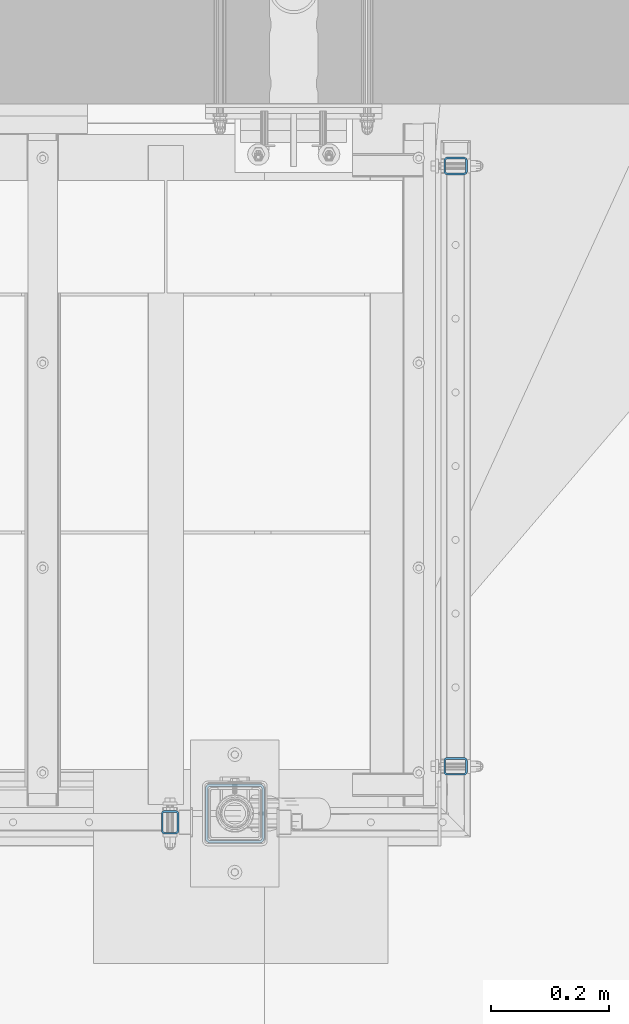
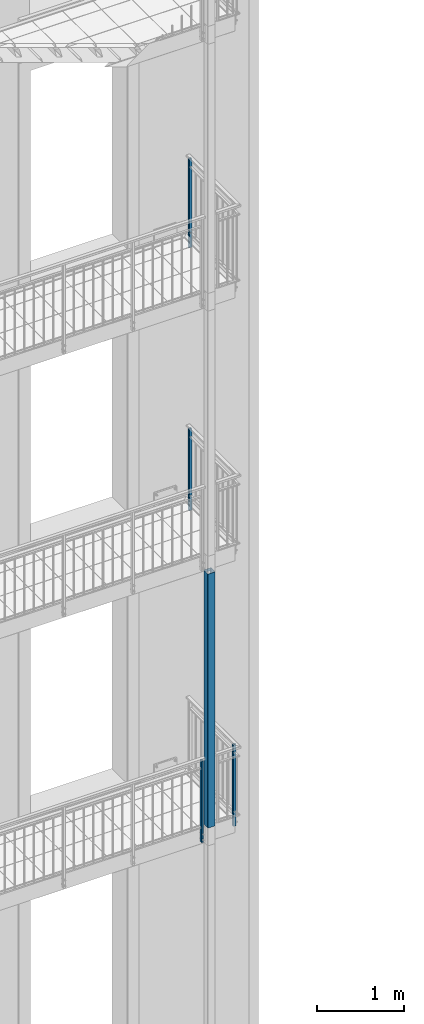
# One storey, part 12 of 162: 5 columns, 29 openings.
"""IFC2X3 building model written with IfcOpenShell, lengths in millimetres."""

from ifc_helpers import new_model, entity, si_unit, converted_unit, point, frame, frame_2d, origin, origin_with_axes, origin_2d, origin_2d_with_axis, place, context, project, spatial, circle_curve, line_curve, trimmed, segment, composite_curve, hollow_rectangle, circle, outline, extrude, material, element, save


model = new_model("IFC2X3")

# Units and contexts
model_context = context("Model", 3, precision=1e-09, world=origin_with_axes())
ifc_project = project(units=[si_unit("LENGTHUNIT", "METRE", prefix="MILLI"), si_unit("AREAUNIT", "SQUARE_METRE"), si_unit("VOLUMEUNIT", "CUBIC_METRE"), converted_unit("PLANEANGLEUNIT", "DEGREE", entity("IfcPlaneAngleMeasure", 0.01745329), si_unit("PLANEANGLEUNIT", "RADIAN"), dimensions=[0, 0, 0, 0, 0, 0, 0])], contexts=[model_context])

# Site, building, storey
site_placement = place(None, origin_with_axes())
site = spatial("IfcSite", under=ifc_project, at=site_placement, Name="Hermannstra?e 1a, 60318 Frankfurt", CompositionType="ELEMENT")
building_placement = place(site_placement, origin_with_axes())
building = spatial("IfcBuilding", under=site, at=building_placement, Name="Struktur 1", CompositionType="ELEMENT")
storey_placement = place(building_placement, origin_with_axes())
storey = spatial("IfcBuildingStorey", under=building, at=storey_placement, Name="Default Storey", CompositionType="ELEMENT", Elevation=0.0)

# Column, openings
ifc_material = material(Name="S235JR")
column_1_placement = place(None, frame((5848.30936482, 2630.609373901, 7600.0), z_axis=(0.0, 0.0, -1.0), x_axis=(0.0, -1.0, 0.0)))
column_1 = element("IfcColumn", 1, at=column_1_placement, inside=storey, material=ifc_material, Name="-", ObjectType="-", context=model_context, shape_type="SweptSolid", body=[
    extrude(hollow_rectangle(XDim=30.0, YDim=40.0, WallThickness=3.0, InnerFilletRadius=3.0, OuterFilletRadius=6.0, at=origin_2d()), origin(), (0.0, 0.0, -1.0), 1150.0),
])
opening_1_placement = place(column_1_placement, frame((11.5, -5.001, -1040.0), z_axis=(-1.0, 0.0, 0.0), x_axis=(0.0, -1.0, 0.0)))
element("IfcOpeningElement", 2, at=opening_1_placement, cuts=column_1, ObjectType="Opening", context=model_context, shape_type="SweptSolid", body=[
    extrude(circle(Radius=5.001, at=frame_2d((-5.001, 0.0), x_axis=(1.0, 0.0))), origin(), (0.0, 0.0, -1.0), 4.0),
])
opening_2_placement = place(column_1_placement, frame((11.5, -5.001, -210.0), z_axis=(-1.0, 0.0, 0.0), x_axis=(0.0, -1.0, 0.0)))
element("IfcOpeningElement", 3, at=opening_2_placement, cuts=column_1, ObjectType="Opening", context=model_context, shape_type="SweptSolid", body=[
    extrude(circle(Radius=5.001, at=frame_2d((-5.001, 0.0), x_axis=(1.0, 0.0))), origin(), (0.0, 0.0, -1.0), 4.0),
])
opening_3_placement = place(column_1_placement, frame((8.001, 16.5, -120.0), z_axis=(0.0, -1.0, 0.0), x_axis=(1.0, 0.0, 0.0)))
element("IfcOpeningElement", 4, at=opening_3_placement, cuts=column_1, ObjectType="Opening", context=model_context, shape_type="SweptSolid", body=[
    extrude(circle(Radius=8.001, at=frame_2d((-8.001, 0.0), x_axis=(1.0, 0.0))), origin(), (0.0, 0.0, -1.0), 4.0),
])
opening_4_placement = place(column_1_placement, frame((8.001, 16.5, -40.0), z_axis=(0.0, -1.0, 0.0), x_axis=(1.0, 0.0, 0.0)))
element("IfcOpeningElement", 5, at=opening_4_placement, cuts=column_1, ObjectType="Opening", context=model_context, shape_type="SweptSolid", body=[
    extrude(circle(Radius=8.001, at=frame_2d((-8.001, 0.0), x_axis=(1.0, 0.0))), origin(), (0.0, 0.0, -1.0), 4.0),
])
opening_5_placement = place(column_1_placement, frame((8.001, -20.5, -120.0), z_axis=(0.0, -1.0, 0.0), x_axis=(1.0, 0.0, 0.0)))
element("IfcOpeningElement", 6, at=opening_5_placement, cuts=column_1, ObjectType="Opening", context=model_context, shape_type="SweptSolid", body=[
    extrude(circle(Radius=8.001, at=frame_2d((-8.001, 0.0), x_axis=(1.0, 0.0))), origin(), (0.0, 0.0, -1.0), 4.0),
])
opening_6_placement = place(column_1_placement, frame((8.001, -20.5, -40.0), z_axis=(0.0, -1.0, 0.0), x_axis=(1.0, 0.0, 0.0)))
element("IfcOpeningElement", 7, at=opening_6_placement, cuts=column_1, ObjectType="Opening", context=model_context, shape_type="SweptSolid", body=[
    extrude(circle(Radius=8.001, at=frame_2d((-8.001, 0.0), x_axis=(1.0, 0.0))), origin(), (0.0, 0.0, -1.0), 4.0),
])

column_2_placement = place(None, frame((5848.30936482, 2630.609373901, 11299.999), z_axis=(0.0, 0.0, -1.0), x_axis=(0.0, -1.0, 0.0)))
column_2 = element("IfcColumn", 8, at=column_2_placement, inside=storey, material=ifc_material, Name="-", ObjectType="-", context=model_context, shape_type="SweptSolid", body=[
    extrude(hollow_rectangle(XDim=30.0, YDim=40.0, WallThickness=3.0, InnerFilletRadius=3.0, OuterFilletRadius=6.0, at=origin_2d()), origin(), (0.0, 0.0, -1.0), 1250.0),
])
opening_7_placement = place(column_2_placement, frame((11.5, -5.001, -1140.0), z_axis=(-1.0, 0.0, 0.0), x_axis=(0.0, -1.0, 0.0)))
element("IfcOpeningElement", 9, at=opening_7_placement, cuts=column_2, ObjectType="Opening", context=model_context, shape_type="SweptSolid", body=[
    extrude(circle(Radius=5.001, at=frame_2d((-5.001, 0.0), x_axis=(1.0, 0.0))), origin(), (0.0, 0.0, -1.0), 4.0),
])
opening_8_placement = place(column_2_placement, frame((11.5, -5.001, -210.0), z_axis=(-1.0, 0.0, 0.0), x_axis=(0.0, -1.0, 0.0)))
element("IfcOpeningElement", 10, at=opening_8_placement, cuts=column_2, ObjectType="Opening", context=model_context, shape_type="SweptSolid", body=[
    extrude(circle(Radius=5.001, at=frame_2d((-5.001, 0.0), x_axis=(1.0, 0.0))), origin(), (0.0, 0.0, -1.0), 4.0),
])
opening_9_placement = place(column_2_placement, frame((8.001, 16.5, -120.0), z_axis=(0.0, -1.0, 0.0), x_axis=(1.0, 0.0, 0.0)))
element("IfcOpeningElement", 11, at=opening_9_placement, cuts=column_2, ObjectType="Opening", context=model_context, shape_type="SweptSolid", body=[
    extrude(circle(Radius=8.001, at=frame_2d((-8.001, 0.0), x_axis=(1.0, 0.0))), origin(), (0.0, 0.0, -1.0), 4.0),
])
opening_10_placement = place(column_2_placement, frame((8.001, 16.5, -40.0), z_axis=(0.0, -1.0, 0.0), x_axis=(1.0, 0.0, 0.0)))
element("IfcOpeningElement", 12, at=opening_10_placement, cuts=column_2, ObjectType="Opening", context=model_context, shape_type="SweptSolid", body=[
    extrude(circle(Radius=8.001, at=frame_2d((-8.001, 0.0), x_axis=(1.0, 0.0))), origin(), (0.0, 0.0, -1.0), 4.0),
])
opening_11_placement = place(column_2_placement, frame((8.001, -20.5, -120.0), z_axis=(0.0, -1.0, 0.0), x_axis=(1.0, 0.0, 0.0)))
element("IfcOpeningElement", 13, at=opening_11_placement, cuts=column_2, ObjectType="Opening", context=model_context, shape_type="SweptSolid", body=[
    extrude(circle(Radius=8.001, at=frame_2d((-8.001, 0.0), x_axis=(1.0, 0.0))), origin(), (0.0, 0.0, -1.0), 4.0),
])
opening_12_placement = place(column_2_placement, frame((8.001, -20.5, -40.0), z_axis=(0.0, -1.0, 0.0), x_axis=(1.0, 0.0, 0.0)))
element("IfcOpeningElement", 14, at=opening_12_placement, cuts=column_2, ObjectType="Opening", context=model_context, shape_type="SweptSolid", body=[
    extrude(circle(Radius=8.001, at=frame_2d((-8.001, 0.0), x_axis=(1.0, 0.0))), origin(), (0.0, 0.0, -1.0), 4.0),
])

column_3_placement = place(None, frame((5473.30936482, 1530.609373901, 3965.0), z_axis=(0.0, 0.0, 1.0), x_axis=(0.0, -1.0, 0.0)))
column_3 = element("IfcColumn", 15, at=column_3_placement, inside=storey, material=ifc_material, Name="-", ObjectType="-", context=model_context, shape_type="SweptSolid", body=[
    extrude(hollow_rectangle(XDim=100.0, YDim=100.0, WallThickness=4.0, InnerFilletRadius=4.0, OuterFilletRadius=8.0, at=origin_2d()), origin(), (0.0, 0.0, 1.0), 3575.0),
])
opening_13_placement = place(column_3_placement, frame((-150.1, 35.001, 3402.499), z_axis=(-1.0, 0.0, 0.0), x_axis=(0.0, -0.707106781, -0.707106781)))
element("IfcOpeningElement", 16, at=opening_13_placement, cuts=column_3, ObjectType="Opening", context=model_context, shape_type="SweptSolid", body=[
    extrude(outline(composite_curve([segment(trimmed(circle_curve(frame_2d((7.071067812, 7.071067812), x_axis=(1.0, 0.0)), 10.0), [point((0.0, 0.0))], [point((14.142135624, 0.0))], True, "CARTESIAN"), True, "CONTINUOUS"), segment(trimmed(line_curve((14.142135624, 0.0), (0.707106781, 0.707106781), 50.002), [point((14.142135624, 0.0))], [point((49.498888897, 35.356753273))], True, "CARTESIAN"), True, "CONTINUOUS"), segment(trimmed(circle_curve(frame_2d((42.427821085, 42.427821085), x_axis=(1.0, 0.0)), 10.0), [point((49.498888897, 35.356753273))], [point((49.498888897, 49.498888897))], True, "CARTESIAN"), True, "CONTINUOUS"), segment(trimmed(line_curve((49.498888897, 49.498888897), (-0.707106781, 0.707106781), 125.002), [point((49.498888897, 49.498888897))], [point((-38.890872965, 137.888650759))], True, "CARTESIAN"), True, "CONTINUOUS"), segment(trimmed(circle_curve(frame_2d((-45.961940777, 130.817582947), x_axis=(1.0, 0.0)), 10.0), [point((-38.890872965, 137.888650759))], [point((-53.033008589, 137.888650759))], True, "CARTESIAN"), True, "CONTINUOUS"), segment(trimmed(line_curve((-53.033008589, 137.888650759), (-0.707106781, -0.707106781), 50.002), [point((-53.033008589, 137.888650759))], [point((-88.389761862, 102.531897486))], True, "CARTESIAN"), True, "CONTINUOUS"), segment(trimmed(circle_curve(frame_2d((-81.31869405, 95.460829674), x_axis=(1.0, 0.0)), 10.0), [point((-88.389761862, 102.531897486))], [point((-88.389761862, 88.389761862))], True, "CARTESIAN"), True, "CONTINUOUS"), segment(trimmed(line_curve((-88.389761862, 88.389761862), (0.707106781, -0.707106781), 125.002), [point((-88.389761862, 88.389761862))], [point((0.0, 0.0))], True, "CARTESIAN"), True, "CONTINUOUS")], self_intersect=False)), origin(), (0.0, 0.0, -1.0), 170.1),
])
opening_14_placement = place(column_3_placement, frame((-45.5, 0.0, 3465.0), z_axis=(-1.0, 0.0, 0.0), x_axis=(0.0, -1.0, 0.0)))
element("IfcOpeningElement", 17, at=opening_14_placement, cuts=column_3, ObjectType="Opening", context=model_context, shape_type="SweptSolid", body=[
    extrude(circle(Radius=2.751, at=frame_2d((0.0, 90.0), x_axis=(1.0, 0.0))), origin(), (0.0, 0.0, 1.0), 5.0),
])
opening_15_placement = place(column_3_placement, frame((-45.5, 0.0, 3465.0), z_axis=(-1.0, 0.0, 0.0), x_axis=(0.0, -1.0, 0.0)))
element("IfcOpeningElement", 18, at=opening_15_placement, cuts=column_3, ObjectType="Opening", context=model_context, shape_type="SweptSolid", body=[
    extrude(circle(Radius=2.751, at=frame_2d((0.0, -90.0), x_axis=(1.0, 0.0))), origin(), (0.0, 0.0, 1.0), 5.0),
])

column_4_placement = place(None, frame((5848.30936482, 1610.609373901, 3775.0), z_axis=(0.0, 0.0, -1.0), x_axis=(0.0, -1.0, 0.0)))
column_4 = element("IfcColumn", 19, at=column_4_placement, inside=storey, material=ifc_material, Name="-", ObjectType="-", context=model_context, shape_type="SweptSolid", body=[
    extrude(hollow_rectangle(XDim=30.0, YDim=40.0, WallThickness=3.0, InnerFilletRadius=3.0, OuterFilletRadius=6.0, at=origin_2d()), origin(), (0.0, 0.0, -1.0), 1150.0),
])
opening_16_placement = place(column_4_placement, frame((-11.5, 0.0, -1040.0), z_axis=(-1.0, 0.0, 0.0), x_axis=(0.0, 1.0, 0.0)))
element("IfcOpeningElement", 20, at=opening_16_placement, cuts=column_4, ObjectType="Opening", context=model_context, shape_type="SweptSolid", body=[
    extrude(circle(Radius=5.001, at=origin_2d_with_axis()), origin(), (0.0, 0.0, 1.0), 4.0),
])
opening_17_placement = place(column_4_placement, frame((-11.5, 0.0, -240.0), z_axis=(-1.0, 0.0, 0.0), x_axis=(0.0, 1.0, 0.0)))
element("IfcOpeningElement", 21, at=opening_17_placement, cuts=column_4, ObjectType="Opening", context=model_context, shape_type="SweptSolid", body=[
    extrude(circle(Radius=5.001, at=frame_2d((0.0, -30.0), x_axis=(1.0, 0.0))), origin(), (0.0, 0.0, 1.0), 4.0),
])
opening_18_placement = place(column_4_placement, frame((11.5, -5.001, -210.0), z_axis=(-1.0, 0.0, 0.0), x_axis=(0.0, -1.0, 0.0)))
element("IfcOpeningElement", 22, at=opening_18_placement, cuts=column_4, ObjectType="Opening", context=model_context, shape_type="SweptSolid", body=[
    extrude(circle(Radius=5.001, at=frame_2d((-5.001, 0.0), x_axis=(1.0, 0.0))), origin(), (0.0, 0.0, -1.0), 4.0),
])
opening_19_placement = place(column_4_placement, frame((11.5, -5.001, -1040.0), z_axis=(-1.0, 0.0, 0.0), x_axis=(0.0, -1.0, 0.0)))
element("IfcOpeningElement", 23, at=opening_19_placement, cuts=column_4, ObjectType="Opening", context=model_context, shape_type="SweptSolid", body=[
    extrude(circle(Radius=5.001, at=frame_2d((-5.001, 0.0), x_axis=(1.0, 0.0))), origin(), (0.0, 0.0, -1.0), 4.0),
])
opening_20_placement = place(column_4_placement, frame((8.001, 16.5, -120.0), z_axis=(0.0, -1.0, 0.0), x_axis=(1.0, 0.0, 0.0)))
element("IfcOpeningElement", 24, at=opening_20_placement, cuts=column_4, ObjectType="Opening", context=model_context, shape_type="SweptSolid", body=[
    extrude(circle(Radius=8.001, at=frame_2d((-8.001, 0.0), x_axis=(1.0, 0.0))), origin(), (0.0, 0.0, -1.0), 4.0),
])
opening_21_placement = place(column_4_placement, frame((8.001, 16.5, -40.0), z_axis=(0.0, -1.0, 0.0), x_axis=(1.0, 0.0, 0.0)))
element("IfcOpeningElement", 25, at=opening_21_placement, cuts=column_4, ObjectType="Opening", context=model_context, shape_type="SweptSolid", body=[
    extrude(circle(Radius=8.001, at=frame_2d((-8.001, 0.0), x_axis=(1.0, 0.0))), origin(), (0.0, 0.0, -1.0), 4.0),
])
opening_22_placement = place(column_4_placement, frame((8.001, -20.5, -120.0), z_axis=(0.0, -1.0, 0.0), x_axis=(1.0, 0.0, 0.0)))
element("IfcOpeningElement", 26, at=opening_22_placement, cuts=column_4, ObjectType="Opening", context=model_context, shape_type="SweptSolid", body=[
    extrude(circle(Radius=8.001, at=frame_2d((-8.001, 0.0), x_axis=(1.0, 0.0))), origin(), (0.0, 0.0, -1.0), 4.0),
])
opening_23_placement = place(column_4_placement, frame((8.001, -20.5, -40.0), z_axis=(0.0, -1.0, 0.0), x_axis=(1.0, 0.0, 0.0)))
element("IfcOpeningElement", 27, at=opening_23_placement, cuts=column_4, ObjectType="Opening", context=model_context, shape_type="SweptSolid", body=[
    extrude(circle(Radius=8.001, at=frame_2d((-8.001, 0.0), x_axis=(1.0, 0.0))), origin(), (0.0, 0.0, -1.0), 4.0),
])

column_5_placement = place(None, frame((5363.30936482, 1515.609373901, 3775.0), z_axis=(0.0, 0.0, -1.0), x_axis=(1.0, 0.0, 0.0)))
column_5 = element("IfcColumn", 28, at=column_5_placement, inside=storey, material=ifc_material, Name="-", ObjectType="-", context=model_context, shape_type="SweptSolid", body=[
    extrude(hollow_rectangle(XDim=30.0, YDim=40.0, WallThickness=3.0, InnerFilletRadius=3.0, OuterFilletRadius=6.0, at=origin_2d()), origin(), (0.0, 0.0, -1.0), 1150.0),
])
opening_24_placement = place(column_5_placement, frame((-11.5, 5.001, -210.0), z_axis=(1.0, 0.0, 0.0), x_axis=(0.0, 1.0, 0.0)))
element("IfcOpeningElement", 29, at=opening_24_placement, cuts=column_5, ObjectType="Opening", context=model_context, shape_type="SweptSolid", body=[
    extrude(circle(Radius=5.001, at=frame_2d((-5.001, 0.0), x_axis=(1.0, 0.0))), origin(), (0.0, 0.0, -1.0), 4.0),
])
opening_25_placement = place(column_5_placement, frame((-11.5, 5.001, -1040.0), z_axis=(1.0, 0.0, 0.0), x_axis=(0.0, 1.0, 0.0)))
element("IfcOpeningElement", 30, at=opening_25_placement, cuts=column_5, ObjectType="Opening", context=model_context, shape_type="SweptSolid", body=[
    extrude(circle(Radius=5.001, at=frame_2d((-5.001, 0.0), x_axis=(1.0, 0.0))), origin(), (0.0, 0.0, -1.0), 4.0),
])
opening_26_placement = place(column_5_placement, frame((-8.001, -16.5, -120.0), z_axis=(0.0, 1.0, 0.0), x_axis=(-1.0, 0.0, 0.0)))
element("IfcOpeningElement", 31, at=opening_26_placement, cuts=column_5, ObjectType="Opening", context=model_context, shape_type="SweptSolid", body=[
    extrude(circle(Radius=8.001, at=frame_2d((-8.001, 0.0), x_axis=(1.0, 0.0))), origin(), (0.0, 0.0, -1.0), 4.0),
])
opening_27_placement = place(column_5_placement, frame((-8.001, -16.5, -40.0), z_axis=(0.0, 1.0, 0.0), x_axis=(-1.0, 0.0, 0.0)))
element("IfcOpeningElement", 32, at=opening_27_placement, cuts=column_5, ObjectType="Opening", context=model_context, shape_type="SweptSolid", body=[
    extrude(circle(Radius=8.001, at=frame_2d((-8.001, 0.0), x_axis=(1.0, 0.0))), origin(), (0.0, 0.0, -1.0), 4.0),
])
opening_28_placement = place(column_5_placement, frame((-8.001, 20.5, -120.0), z_axis=(0.0, 1.0, 0.0), x_axis=(-1.0, 0.0, 0.0)))
element("IfcOpeningElement", 33, at=opening_28_placement, cuts=column_5, ObjectType="Opening", context=model_context, shape_type="SweptSolid", body=[
    extrude(circle(Radius=8.001, at=frame_2d((-8.001, 0.0), x_axis=(1.0, 0.0))), origin(), (0.0, 0.0, -1.0), 4.0),
])
opening_29_placement = place(column_5_placement, frame((-8.001, 20.5, -40.0), z_axis=(0.0, 1.0, 0.0), x_axis=(-1.0, 0.0, 0.0)))
element("IfcOpeningElement", 34, at=opening_29_placement, cuts=column_5, ObjectType="Opening", context=model_context, shape_type="SweptSolid", body=[
    extrude(circle(Radius=8.001, at=frame_2d((-8.001, 0.0), x_axis=(1.0, 0.0))), origin(), (0.0, 0.0, -1.0), 4.0),
])

save(model, "model.ifc")
